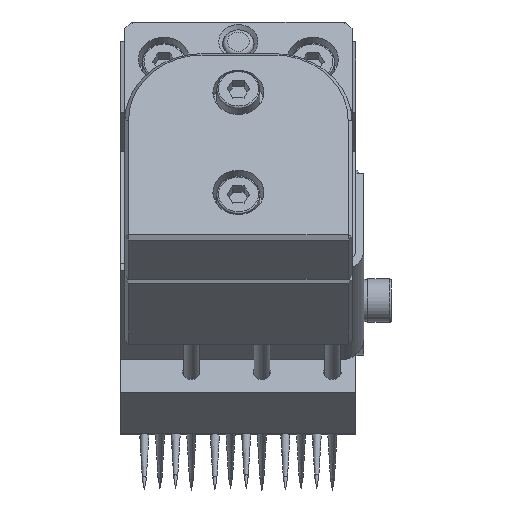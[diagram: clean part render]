
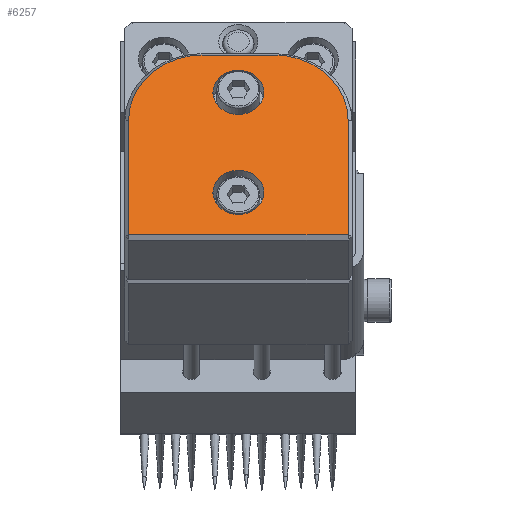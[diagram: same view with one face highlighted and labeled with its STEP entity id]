
A CAD part, top view. The second image highlights one B-rep face of the part: STEP entity #6257.
In plain terms, the highlighted planar face has unit normal (0, 0.5, 0.866) as drawn and (-1, 0, 0) by its records, which use the part's own axes.
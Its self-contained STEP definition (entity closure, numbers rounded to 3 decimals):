
#582=LINE('',#10975,#962);
#585=LINE('',#10981,#965);
#589=LINE('',#10993,#969);
#591=LINE('',#11001,#971);
#962=VECTOR('',#8800,10.);
#965=VECTOR('',#8805,10.);
#969=VECTOR('',#8817,10.);
#971=VECTOR('',#8827,10.);
#1329=PLANE('',#7216);
#1645=FACE_BOUND('',#2670,.T.);
#1646=FACE_BOUND('',#2671,.T.);
#1999=FACE_OUTER_BOUND('',#2669,.T.);
#2669=EDGE_LOOP('',(#5404,#5405,#5406,#5407,#5408,#5409));
#2670=EDGE_LOOP('',(#5410));
#2671=EDGE_LOOP('',(#5411));
#3044=CIRCLE('',#7187,9.5);
#3046=CIRCLE('',#7191,9.5);
#3055=CIRCLE('',#7217,3.25);
#3056=CIRCLE('',#7218,3.25);
#3504=VERTEX_POINT('',#10960);
#3509=VERTEX_POINT('',#10970);
#3510=VERTEX_POINT('',#10977);
#3512=VERTEX_POINT('',#10983);
#3514=VERTEX_POINT('',#10989);
#3516=VERTEX_POINT('',#10995);
#3532=VERTEX_POINT('',#11064);
#3533=VERTEX_POINT('',#11066);
#4147=EDGE_CURVE('',#3504,#3509,#582,.T.);
#4150=EDGE_CURVE('',#3509,#3510,#585,.T.);
#4153=EDGE_CURVE('',#3510,#3512,#3044,.T.);
#4156=EDGE_CURVE('',#3512,#3514,#589,.T.);
#4159=EDGE_CURVE('',#3514,#3516,#3046,.T.);
#4160=EDGE_CURVE('',#3516,#3504,#591,.T.);
#4193=EDGE_CURVE('',#3532,#3532,#3055,.T.);
#4194=EDGE_CURVE('',#3533,#3533,#3056,.T.);
#5404=ORIENTED_EDGE('',*,*,#4147,.F.);
#5405=ORIENTED_EDGE('',*,*,#4160,.F.);
#5406=ORIENTED_EDGE('',*,*,#4159,.F.);
#5407=ORIENTED_EDGE('',*,*,#4156,.F.);
#5408=ORIENTED_EDGE('',*,*,#4153,.F.);
#5409=ORIENTED_EDGE('',*,*,#4150,.F.);
#5410=ORIENTED_EDGE('',*,*,#4193,.T.);
#5411=ORIENTED_EDGE('',*,*,#4194,.T.);
#6257=ADVANCED_FACE('',(#1999,#1645,#1646),#1329,.F.);
#7187=AXIS2_PLACEMENT_3D('',#10987,#8811,#8812);
#7191=AXIS2_PLACEMENT_3D('',#10999,#8823,#8824);
#7216=AXIS2_PLACEMENT_3D('',#11063,#8898,#8899);
#7217=AXIS2_PLACEMENT_3D('',#11065,#8900,#8901);
#7218=AXIS2_PLACEMENT_3D('',#11067,#8902,#8903);
#8800=DIRECTION('',(0.,0.,-1.));
#8805=DIRECTION('',(0.,1.,0.));
#8811=DIRECTION('center_axis',(1.,0.,0.));
#8812=DIRECTION('ref_axis',(0.,0.,-1.));
#8817=DIRECTION('',(0.,0.,1.));
#8823=DIRECTION('center_axis',(1.,0.,0.));
#8824=DIRECTION('ref_axis',(0.,1.,0.));
#8827=DIRECTION('',(0.,-1.,0.));
#8898=DIRECTION('center_axis',(1.,0.,0.));
#8899=DIRECTION('ref_axis',(0.,0.,-1.));
#8900=DIRECTION('center_axis',(1.,0.,0.));
#8901=DIRECTION('ref_axis',(0.,0.,-1.));
#8902=DIRECTION('center_axis',(1.,0.,0.));
#8903=DIRECTION('ref_axis',(0.,0.,-1.));
#10960=CARTESIAN_POINT('',(0.,-13.25,14.));
#10970=CARTESIAN_POINT('',(0.,-13.25,-14.));
#10975=CARTESIAN_POINT('',(0.,-13.25,7.25));
#10977=CARTESIAN_POINT('',(0.,3.75,-14.));
#10981=CARTESIAN_POINT('',(0.,-7.971,-14.));
#10983=CARTESIAN_POINT('',(0.,13.25,-4.5));
#10987=CARTESIAN_POINT('Origin',(0.,3.75,-4.5));
#10989=CARTESIAN_POINT('',(0.,13.25,4.5));
#10993=CARTESIAN_POINT('',(0.,13.25,-2.25));
#10995=CARTESIAN_POINT('',(0.,3.75,14.));
#10999=CARTESIAN_POINT('Origin',(0.,3.75,4.5));
#11001=CARTESIAN_POINT('',(0.,0.779,14.));
#11063=CARTESIAN_POINT('Origin',(0.,-2.192,0.));
#11064=CARTESIAN_POINT('',(0.,7.75,3.25));
#11065=CARTESIAN_POINT('Origin',(0.,7.75,0.));
#11066=CARTESIAN_POINT('',(0.,-7.,3.25));
#11067=CARTESIAN_POINT('Origin',(0.,-7.,0.));
